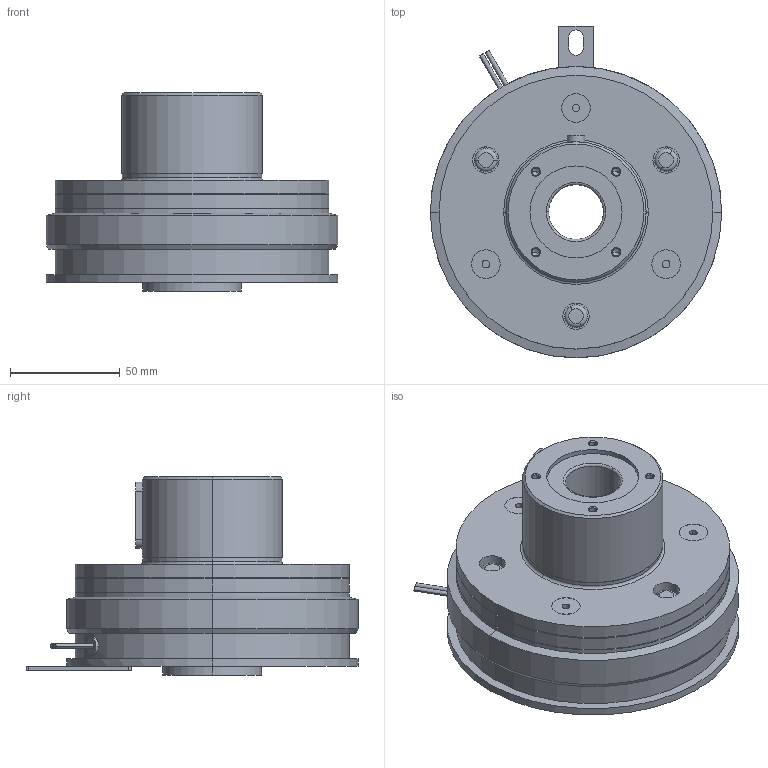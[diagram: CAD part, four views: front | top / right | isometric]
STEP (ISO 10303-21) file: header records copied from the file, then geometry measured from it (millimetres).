
FILE_DESCRIPTION (( 'STEP AP214' ), '1' );
FILE_NAME ('CS-12-35G R25DIN A25DIN.STEP', '2018-02-14T05:23:19', ( 'MIKI' ), ( '' ), 'SwSTEP 2.0', 'SolidWorks 2012', '' );
FILE_SCHEMA (( 'AUTOMOTIVE_DESIGN' ));
Length unit declared in the file: millimetre
Products named in the file (1): CS-12-35G R25DIN A25DIN
Bounding box: 133 x 151.5 x 90.5 mm (x, y, z)
Volume: 664525.3 mm3; surface area: 95530.1 mm2
Topology: 1 solids, 5 shells, 240 faces, 519 edges, 316 vertices
Faces by surface type: cylinder 118, plane 62, cone 44, torus 16
Entity records: 9325 total; most frequent: DIRECTION 1269, CARTESIAN_POINT 1241, ORIENTED_EDGE 1006, AXIS2_PLACEMENT_3D 534, EDGE_CURVE 503, VERTEX_POINT 316, CIRCLE 293, EDGE_LOOP 293
